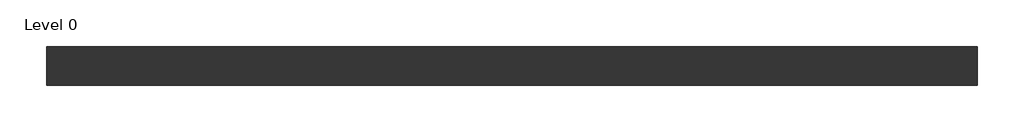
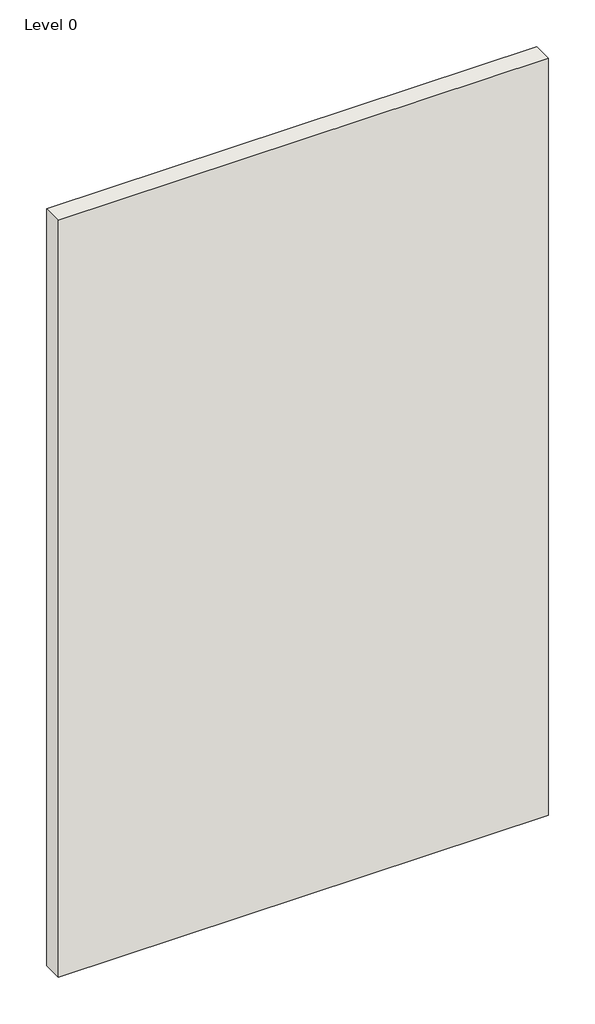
# One storey: 1 wall.
"""IFC4 building model written with IfcOpenShell, lengths in millimetres."""

import ifcopenshell
import ifcopenshell.guid

model = None  # the IFC model being written
_history = None  # IfcOwnerHistory: only IFC2X3 demands one
_inside = {}  # id of a spatial element -> (the spatial element, [elements in it])
_under = {}  # id of a project, library or spatial element -> (it, [spatial elements below it])
_declared = {}  # id of a project -> (the project, [libraries it declares])
_typed = {}  # id of a type object -> (the type object, [elements of that type])
_made_of = {}  # id of a material, layer set ... -> (it, [elements and type objects made of it])


def new_model(schema):
    """Start an empty IFC model of exactly this schema.

    Asked for "IFC4X3", IfcOpenShell would pick the latest addendum, in which some entities
    have other attributes; the version numbers below select the first issue.
    IFC2X3 requires an IfcOwnerHistory on every rooted entity: one is made here for all.
    """
    global model, _history
    if schema == "IFC4X3":
        model = ifcopenshell.file(schema_version=(4, 3, 0, 0))
    else:
        model = ifcopenshell.file(schema=schema)
    _inside.clear()
    _under.clear()
    _declared.clear()
    _typed.clear()
    _made_of.clear()
    _history = None
    if model.schema == "IFC2X3":
        org = make("IfcOrganization", Name="unknown")
        user = make(
            "IfcPersonAndOrganization",
            ThePerson=make("IfcPerson", FamilyName="unknown"),
            TheOrganization=org,
        )
        app = make(
            "IfcApplication",
            ApplicationDeveloper=org,
            Version="unknown",
            ApplicationFullName="unknown",
            ApplicationIdentifier="unknown",
        )
        _history = make(
            "IfcOwnerHistory",
            OwningUser=user,
            OwningApplication=app,
            ChangeAction="ADDED",
            CreationDate=0,
        )
    return model


def make(cls, **values):
    """One entity of the class cls with the attributes given. An attribute that is None is left unset."""
    return model.create_entity(
        cls, **{name: value for name, value in values.items() if value is not None}
    )


def rooted(cls, **values):
    """An entity with a GlobalId (a new one), such as an element, a storey or a relation."""
    return make(cls, GlobalId=ifcopenshell.guid.new(), OwnerHistory=_history, **values)


def si_unit(unit_type, name, prefix=None):
    """IfcSIUnit, for example si_unit("LENGTHUNIT", "METRE", prefix="MILLI")."""
    return make("IfcSIUnit", UnitType=unit_type, Prefix=prefix, Name=name)


def assignment(units):
    """IfcUnitAssignment: the units of a project."""
    return None if units is None else make("IfcUnitAssignment", Units=units)


def point(xyz):
    """IfcCartesianPoint."""
    return None if xyz is None else make("IfcCartesianPoint", Coordinates=xyz)


def direction(xyz):
    """IfcDirection."""
    return None if xyz is None else make("IfcDirection", DirectionRatios=xyz)


def frame(location, z_axis=None, x_axis=None):
    """IfcAxis2Placement3D, a coordinate frame: its origin and axes. An axis left out is left unset."""
    return make(
        "IfcAxis2Placement3D",
        Location=point(location),
        Axis=direction(z_axis),
        RefDirection=direction(x_axis),
    )


def origin():
    """The frame at (0, 0, 0) with its axes left unset."""
    return frame((0.0, 0.0, 0.0))


def origin_with_axes():
    """The frame at (0, 0, 0) with the z axis (0, 0, 1) and the x axis (1, 0, 0) written out."""
    return frame((0.0, 0.0, 0.0), z_axis=(0.0, 0.0, 1.0), x_axis=(1.0, 0.0, 0.0))


def place(relative_to, where):
    """IfcLocalPlacement: puts the frame where relative to a parent placement (None: the world)."""
    return make(
        "IfcLocalPlacement", PlacementRelTo=relative_to, RelativePlacement=where
    )


def context(
    kind, dimensions, precision=None, world=None, true_north=None, identifier=None
):
    """IfcGeometricRepresentationContext, for example the 3D "Model" context."""
    return make(
        "IfcGeometricRepresentationContext",
        ContextIdentifier=identifier,
        ContextType=kind,
        CoordinateSpaceDimension=dimensions,
        Precision=precision,
        WorldCoordinateSystem=world,
        TrueNorth=true_north,
    )


def project(units=None, contexts=None):
    """IfcProject with its units and contexts."""
    return rooted(
        "IfcProject",
        Name="project",
        RepresentationContexts=contexts,
        UnitsInContext=assignment(units),
    )


def spatial(cls, under=None, at=None, **own):
    """A site, building, storey or space (cls), placed at a placement, below another one or the project."""
    s = rooted(cls, ObjectPlacement=at, **own)
    if under is not None:
        _under.setdefault(under.id(), (under, []))[1].append(s)
    return s


def polyline(points):
    """IfcPolyline through the points."""
    return make("IfcPolyline", Points=[point(p) for p in points])


def outline(outer, holes=None, kind="AREA"):
    """IfcArbitraryClosedProfileDef: a profile drawn as a closed curve; with holes, ...WithVoids."""
    if holes is None:
        return make("IfcArbitraryClosedProfileDef", ProfileType=kind, OuterCurve=outer)
    return make(
        "IfcArbitraryProfileDefWithVoids",
        ProfileType=kind,
        OuterCurve=outer,
        InnerCurves=holes,
    )


def extrude(swept, where, along, depth):
    """IfcExtrudedAreaSolid: the profile swept, set in the frame where, extruded along a direction by depth."""
    return make(
        "IfcExtrudedAreaSolid",
        SweptArea=swept,
        Position=where,
        ExtrudedDirection=direction(along),
        Depth=depth,
    )


def shape(context_of_items, identifier, shape_type, items):
    """IfcShapeRepresentation: the items that make up one representation, for example the "Body"."""
    return make(
        "IfcShapeRepresentation",
        ContextOfItems=context_of_items,
        RepresentationIdentifier=identifier,
        RepresentationType=shape_type,
        Items=items,
    )


def made_of(thing, what):
    """Note that an element or type object is made of a material, layer set ...; save() writes the relation."""
    if what is not None:
        _made_of.setdefault(what.id(), (what, []))[1].append(thing)
    return thing


def element(
    cls,
    number,
    at=None,
    inside=None,
    cuts=None,
    type_object=None,
    material=None,
    context=None,
    identifier="Body",
    shape_type=None,
    held_by="IfcProductDefinitionShape",
    body=None,
    shapes=None,
    **own,
):
    """One element of the class cls, such as IfcWall. Its Tag is "e" and its number.

    at: its placement. inside: the storey or other place that contains it. cuts: it is an
    opening in that element (IfcRelVoidsElement). A single representation is given by context,
    identifier, shape_type and body (its items); several are given by shapes. held_by: the class
    of the entity that holds the representations. save() writes the other relations.
    """
    e = rooted(cls, Tag="e%d" % number, ObjectPlacement=at, **own)
    if body is not None:
        shapes = [shape(context, identifier, shape_type, body)]
    if shapes is not None:
        e.Representation = make(held_by, Representations=shapes)
    if inside is not None:
        _inside.setdefault(inside.id(), (inside, []))[1].append(e)
    if cuts is not None:
        rooted(
            "IfcRelVoidsElement", RelatingBuildingElement=cuts, RelatedOpeningElement=e
        )
    if type_object is not None:
        _typed.setdefault(type_object.id(), (type_object, []))[1].append(e)
    return made_of(e, material)


def aggregate(whole, parts):
    """IfcRelAggregates: a whole, such as a stair, and the parts it consists of."""
    return rooted("IfcRelAggregates", RelatingObject=whole, RelatedObjects=parts)


def save(model, path):
    """Write the relations noted so far, then the file.

    IfcRelAggregates (storeys below a building ...), IfcRelContainedInSpatialStructure (elements
    in a storey), IfcRelDefinesByType, IfcRelAssociatesMaterial and IfcRelDeclares: one each for
    every whole, place, type object, material and project.
    """
    for whole, parts in _under.values():
        aggregate(whole, parts)
    for where, things in _inside.values():
        rooted(
            "IfcRelContainedInSpatialStructure",
            RelatedElements=things,
            RelatingStructure=where,
        )
    for kind, things in _typed.values():
        rooted("IfcRelDefinesByType", RelatedObjects=things, RelatingType=kind)
    for what, things in _made_of.values():
        rooted("IfcRelAssociatesMaterial", RelatedObjects=things, RelatingMaterial=what)
    for by, libraries in _declared.values():
        rooted("IfcRelDeclares", RelatingContext=by, RelatedDefinitions=libraries)
    model.write(path)


model = new_model("IFC4")

# Units and contexts
model_context = context("Model", 3, world=origin())
ifc_project = project(units=[si_unit("LENGTHUNIT", "METRE", prefix="MILLI")], contexts=[model_context])

# Site, building, storey
site = spatial("IfcSite", under=ifc_project)
building = spatial("IfcBuilding", under=site)
storey = spatial("IfcBuildingStorey", under=building, Name="Level 0", Elevation=0.0)

# Wall
placement = place(None, origin())
element("IfcWall", 1, ObjectType="A206A282 - GypWall CLASSIC", at=placement, inside=storey, context=model_context, shape_type="SweptSolid", body=[
    extrude(outline(polyline([(2116.0807354, 531.7205641), (-883.9192646, 531.7205641), (-883.9192646, 655.7205641), (2116.0807354, 655.7205641), (2116.0807354, 531.7205641)])), origin_with_axes(), (0.0, 0.0, 1.0), 4900.0),
])

save(model, "model.ifc")
